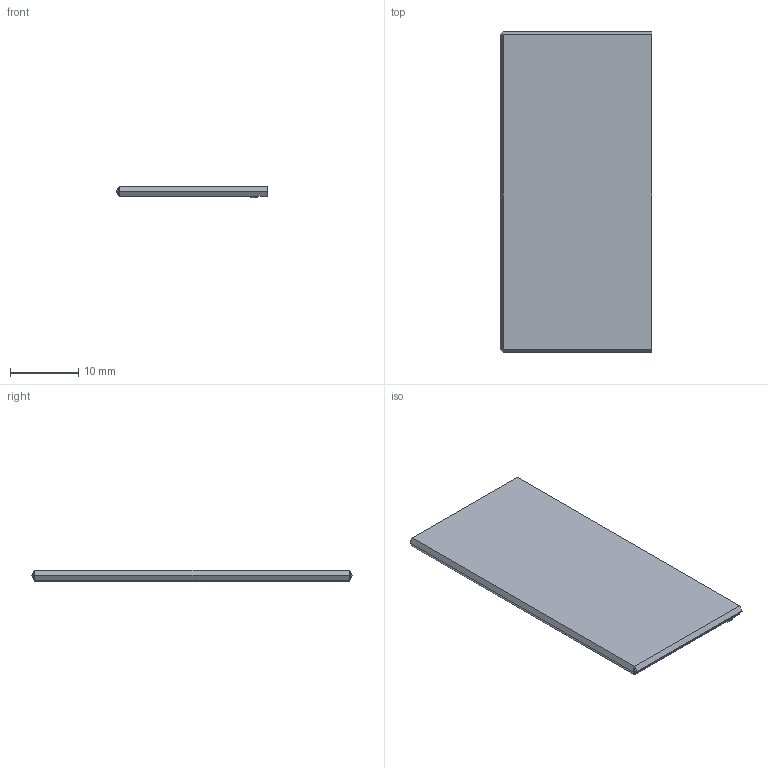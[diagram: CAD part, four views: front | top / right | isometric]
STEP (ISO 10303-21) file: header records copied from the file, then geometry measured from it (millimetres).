
FILE_DESCRIPTION(('STEP AP203'), '1');
FILE_NAME('Çàäíÿÿ êðûøêà ÿùèêà', '', ('UNSPECIFIED'), ('UNSPECIFIED'), 'ASCON STEP Converter 1.6', 'ASCON Math Kernel', '');
FILE_SCHEMA(('CONFIG_CONTROL_DESIGN'));
Length unit declared in the file: millimetre
Bounding box: 22.23 x 47.07 x 1.7 mm (x, y, z)
Volume: 1551.1 mm3; surface area: 2319.1 mm2
Topology: 1 solids, 1 shells, 31 faces, 59 edges, 30 vertices
Faces by surface type: plane 31
Entity records: 1017 total; most frequent: DIRECTION 123, CARTESIAN_POINT 121, ORIENTED_EDGE 118, EDGE_CURVE 59, LINE 59, VECTOR 59, AXIS2_PLACEMENT_3D 32, COLOUR_RGB 32
